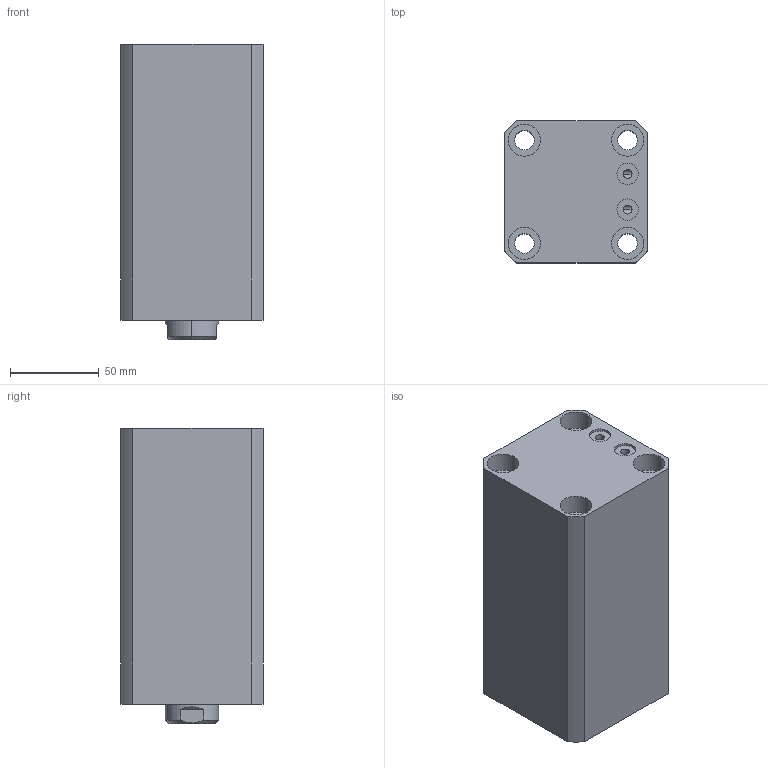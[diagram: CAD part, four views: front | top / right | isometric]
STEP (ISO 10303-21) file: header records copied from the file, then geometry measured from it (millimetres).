
FILE_DESCRIPTION (( 'STEP AP203' ), '1' );
FILE_NAME ('CHTB-SDMB50-95N.STEP', '2018-05-19T07:59:17', ( '' ), ( '' ), 'SwSTEP 2.0', 'SolidWorks 2015', '' );
FILE_SCHEMA (( 'CONFIG_CONTROL_DESIGN' ));
Length unit declared in the file: millimetre
Products named in the file (5): M6; CHTM-SDMA50QG; CHTB-SDMB50-95N; 掛极SDMB50-95N; 活塞杆SDMB50-95N
Assembly tree (5 placements, depth 2):
  CHTB-SDMB50-95N
    掛极SDMB50-95N
    活塞杆SDMB50-95N
    CHTM-SDMA50QG
    M6  x2
Bounding box: 80 x 80 x 166 mm (x, y, z)
Volume: 789831.8 mm3; surface area: 144366.8 mm2
Topology: 5 solids, 5 shells, 263 faces, 693 edges, 458 vertices
Faces by surface type: cylinder 135, plane 55, cone 31, bspline 26, torus 16
Entity records: 13963 total; most frequent: CARTESIAN_POINT 8102, ORIENTED_EDGE 1188, DIRECTION 1016, EDGE_CURVE 594, AXIS2_PLACEMENT_3D 416, VERTEX_POINT 397, EDGE_LOOP 269, FACE_OUTER_BOUND 228
